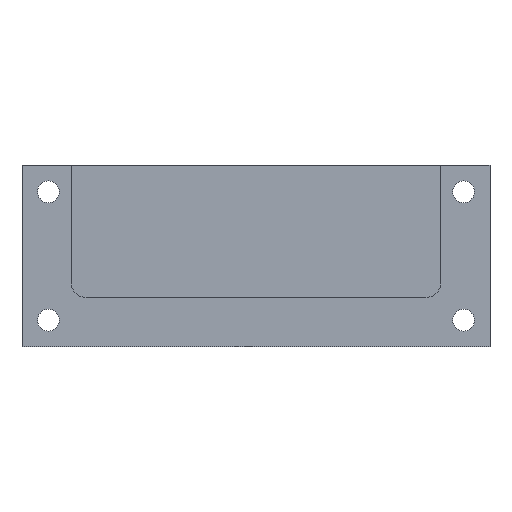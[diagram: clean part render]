
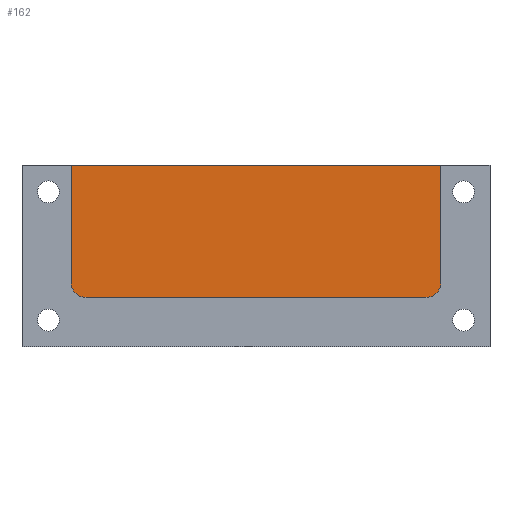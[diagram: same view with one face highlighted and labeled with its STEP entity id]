
A CAD part, top view. The second image highlights one B-rep face of the part: STEP entity #162.
In plain terms, the highlighted planar face has unit normal (0, 0, 1).
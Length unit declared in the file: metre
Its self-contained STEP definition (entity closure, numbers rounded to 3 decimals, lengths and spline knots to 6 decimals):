
#4 = CARTESIAN_POINT ( 'NONE',  ( 0.0535, 0.0085, 0.0027 ) ) ;
#5 = DIRECTION ( 'NONE',  ( 1., 0., 0. ) ) ;
#12 = CARTESIAN_POINT ( 'NONE',  ( 0.0065, 0.0085, 0.0027 ) ) ;
#22 = DIRECTION ( 'NONE',  ( 0., 0., 1. ) ) ;
#28 = LINE ( 'NONE', #147, #311 ) ;
#36 = AXIS2_PLACEMENT_3D ( 'NONE', #41, #213, #63 ) ;
#41 = CARTESIAN_POINT ( 'NONE',  ( 0., 0., 0.0027 ) ) ;
#48 = DIRECTION ( 'NONE',  ( 0., -1., 0. ) ) ;
#56 = EDGE_CURVE ( 'NONE', #396, #149, #28, .T. ) ;
#57 = EDGE_LOOP ( 'NONE', ( #355, #378, #418, #262, #397, #484 ) ) ;
#63 = DIRECTION ( 'NONE',  ( 1., 0., 0. ) ) ;
#110 = DIRECTION ( 'NONE',  ( 1., 0., 0. ) ) ;
#128 = DIRECTION ( 'NONE',  ( 1., 0., 0. ) ) ;
#136 = CARTESIAN_POINT ( 'NONE',  ( 0.0535, 0.0065, 0.0027 ) ) ;
#140 = LINE ( 'NONE', #498, #466 ) ;
#142 = CARTESIAN_POINT ( 'NONE',  ( 0.0085, 0.0065, 0.0027 ) ) ;
#143 = DIRECTION ( 'NONE',  ( 0., 1., 0. ) ) ;
#147 = CARTESIAN_POINT ( 'NONE',  ( 0.0065, 0.0065, 0.0027 ) ) ;
#149 = VERTEX_POINT ( 'NONE', #136 ) ;
#158 = LINE ( 'NONE', #510, #516 ) ;
#162 = ADVANCED_FACE ( 'NONE', ( #285 ), #367, .T. ) ;
#167 = VERTEX_POINT ( 'NONE', #383 ) ;
#177 = CARTESIAN_POINT ( 'NONE',  ( 0.0065, 0.024, 0.0027 ) ) ;
#198 = VERTEX_POINT ( 'NONE', #177 ) ;
#213 = DIRECTION ( 'NONE',  ( 0., 0., 1. ) ) ;
#216 = LINE ( 'NONE', #244, #430 ) ;
#218 = EDGE_CURVE ( 'NONE', #167, #265, #158, .T. ) ;
#236 = AXIS2_PLACEMENT_3D ( 'NONE', #256, #22, #5 ) ;
#244 = CARTESIAN_POINT ( 'NONE',  ( 0., 0.024, 0.0027 ) ) ;
#256 = CARTESIAN_POINT ( 'NONE',  ( 0.0085, 0.0085, 0.0027 ) ) ;
#261 = VERTEX_POINT ( 'NONE', #12 ) ;
#262 = ORIENTED_EDGE ( 'NONE', *, *, #529, .T. ) ;
#265 = VERTEX_POINT ( 'NONE', #461 ) ;
#279 = CIRCLE ( 'NONE', #363, 0.002 ) ;
#285 = FACE_OUTER_BOUND ( 'NONE', #57, .T. ) ;
#311 = VECTOR ( 'NONE', #128, 1. ) ;
#355 = ORIENTED_EDGE ( 'NONE', *, *, #56, .T. ) ;
#363 = AXIS2_PLACEMENT_3D ( 'NONE', #4, #376, #110 ) ;
#367 = PLANE ( 'NONE',  #36 ) ;
#373 = DIRECTION ( 'NONE',  ( -1., 0., 0. ) ) ;
#376 = DIRECTION ( 'NONE',  ( 0., 0., 1. ) ) ;
#378 = ORIENTED_EDGE ( 'NONE', *, *, #471, .T. ) ;
#383 = CARTESIAN_POINT ( 'NONE',  ( 0.0555, 0.0085, 0.0027 ) ) ;
#394 = CIRCLE ( 'NONE', #236, 0.002 ) ;
#396 = VERTEX_POINT ( 'NONE', #142 ) ;
#397 = ORIENTED_EDGE ( 'NONE', *, *, #455, .T. ) ;
#401 = EDGE_CURVE ( 'NONE', #261, #396, #394, .T. ) ;
#418 = ORIENTED_EDGE ( 'NONE', *, *, #218, .T. ) ;
#430 = VECTOR ( 'NONE', #373, 1. ) ;
#455 = EDGE_CURVE ( 'NONE', #198, #261, #140, .T. ) ;
#461 = CARTESIAN_POINT ( 'NONE',  ( 0.0555, 0.024, 0.0027 ) ) ;
#466 = VECTOR ( 'NONE', #48, 1. ) ;
#471 = EDGE_CURVE ( 'NONE', #149, #167, #279, .T. ) ;
#484 = ORIENTED_EDGE ( 'NONE', *, *, #401, .T. ) ;
#498 = CARTESIAN_POINT ( 'NONE',  ( 0.0065, 0.0265, 0.0027 ) ) ;
#510 = CARTESIAN_POINT ( 'NONE',  ( 0.0555, 0.0265, 0.0027 ) ) ;
#516 = VECTOR ( 'NONE', #143, 1. ) ;
#529 = EDGE_CURVE ( 'NONE', #265, #198, #216, .T. ) ;
